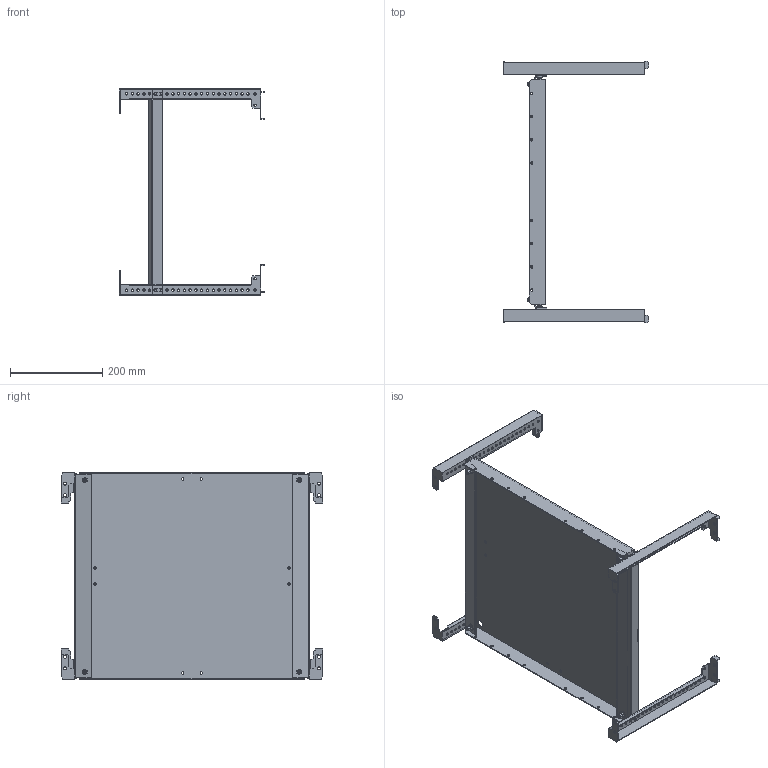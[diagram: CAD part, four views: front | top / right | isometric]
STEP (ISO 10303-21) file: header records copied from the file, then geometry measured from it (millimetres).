
FILE_DESCRIPTION (( 'STEP AP214' ), '1' );
FILE_NAME ('FO-00-MPU-045-060 Ïàíåëü ìîíòàæíàÿ óíèâåðñàëüíàÿ 450?600 ìì.STEP', '2025-07-16T07:06:54', ( '' ), ( '' ), 'SwSTEP 2.0', 'SolidWorks 2023', '' );
FILE_SCHEMA (( 'AUTOMOTIVE_DESIGN' ));
Length unit declared in the file: millimetre
Products named in the file (5): Панель монтажная универсальная 450×600; Траверса горизонтальная; FO-00-MPU-045-060 Панель монтажная универсальная 450×600 мм; Траверса горизонтальнаяD; Винты DIN 912 4xM6x20 450x600
Assembly tree (6 placements, depth 2):
  FO-00-MPU-045-060 Панель монтажная универсальная 450×600 мм
    Панель монтажная универсальная 450×600
    Винты DIN 912 4xM6x20 450x600
    Траверса горизонтальная  x2
    Траверса горизонтальнаяD  x2
Bounding box: 314.53 x 565.63 x 447 mm (x, y, z)
Volume: 872342.2 mm3; surface area: 892549.5 mm2
Topology: 9 solids, 13 shells, 1010 faces, 2744 edges, 1808 vertices
Faces by surface type: cylinder 468, plane 454, cone 56, torus 32
Entity records: 26087 total; most frequent: CARTESIAN_POINT 5387, DIRECTION 4400, ORIENTED_EDGE 4156, EDGE_CURVE 2078, AXIS2_PLACEMENT_3D 1609, VERTEX_POINT 1364, LINE 1182, VECTOR 1182
